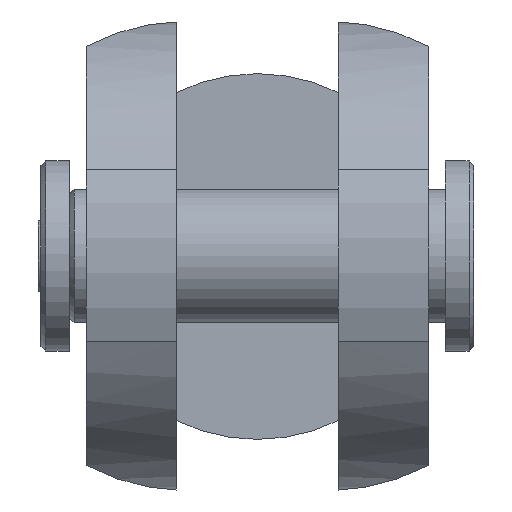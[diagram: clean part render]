
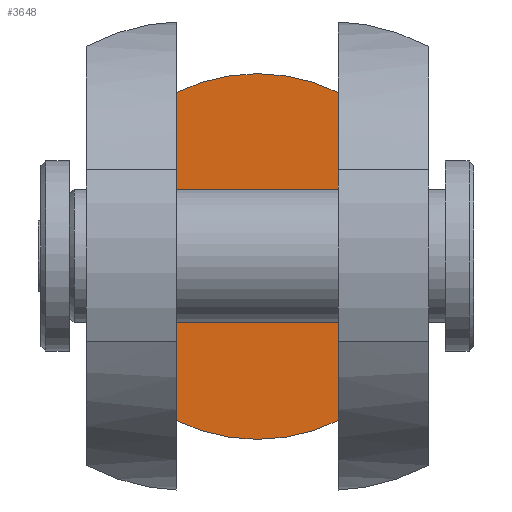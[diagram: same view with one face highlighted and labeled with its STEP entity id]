
A CAD part, top view. The second image highlights one B-rep face of the part: STEP entity #3648.
In plain terms, the highlighted planar face has unit normal (0, 0, 1).
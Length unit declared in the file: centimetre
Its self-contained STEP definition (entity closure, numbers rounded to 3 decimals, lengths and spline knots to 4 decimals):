
#173=PLANE('',#3855);
#586=LINE('',#6003,#942);
#587=LINE('',#6005,#943);
#942=VECTOR('',#4593,3.4465);
#943=VECTOR('',#4596,3.4465);
#1184=FACE_OUTER_BOUND('',#1410,.T.);
#1410=EDGE_LOOP('',(#3168,#3169,#3170,#3171));
#1478=CIRCLE('',#3710,1.9215);
#1479=CIRCLE('',#3711,1.9215);
#1543=VERTEX_POINT('',#4888);
#1544=VERTEX_POINT('',#4892);
#1549=VERTEX_POINT('',#4920);
#1550=VERTEX_POINT('',#4924);
#1875=EDGE_CURVE('',#1543,#1544,#1478,.T.);
#1881=EDGE_CURVE('',#1549,#1550,#1479,.T.);
#2276=EDGE_CURVE('',#1550,#1543,#586,.T.);
#2277=EDGE_CURVE('',#1549,#1544,#587,.T.);
#3168=ORIENTED_EDGE('',*,*,#1881,.F.);
#3169=ORIENTED_EDGE('',*,*,#2277,.T.);
#3170=ORIENTED_EDGE('',*,*,#1875,.F.);
#3171=ORIENTED_EDGE('',*,*,#2276,.F.);
#3648=ADVANCED_FACE('',(#1184),#173,.F.);
#3710=AXIS2_PLACEMENT_3D('',#4893,#3969,#3970);
#3711=AXIS2_PLACEMENT_3D('',#4925,#3971,#3972);
#3855=AXIS2_PLACEMENT_3D('',#6004,#4594,#4595);
#3969=DIRECTION('center_axis',(0.,0.,
-1.));
#3970=DIRECTION('ref_axis',(0.,-1.,0.));
#3971=DIRECTION('center_axis',(0.,0.,
-1.));
#3972=DIRECTION('ref_axis',(0.,-1.,0.));
#4593=DIRECTION('',(0.,1.,0.));
#4594=DIRECTION('center_axis',(0.,0.,
-1.));
#4595=DIRECTION('ref_axis',(-1.,0.,0.));
#4596=DIRECTION('',(0.,1.,0.));
#4888=CARTESIAN_POINT('',(-0.85,1.7233,-3.2));
#4892=CARTESIAN_POINT('',(0.85,1.7233,-3.2));
#4893=CARTESIAN_POINT('Origin',(0.,0.,
-3.2));
#4920=CARTESIAN_POINT('',(0.85,-1.7233,-3.2));
#4924=CARTESIAN_POINT('',(-0.85,-1.7233,-3.2));
#4925=CARTESIAN_POINT('Origin',(0.,0.,
-3.2));
#6003=CARTESIAN_POINT('',(-0.85,0.,-3.2));
#6004=CARTESIAN_POINT('Origin',(0.85,0.,
-3.2));
#6005=CARTESIAN_POINT('',(0.85,0.,-3.2));
